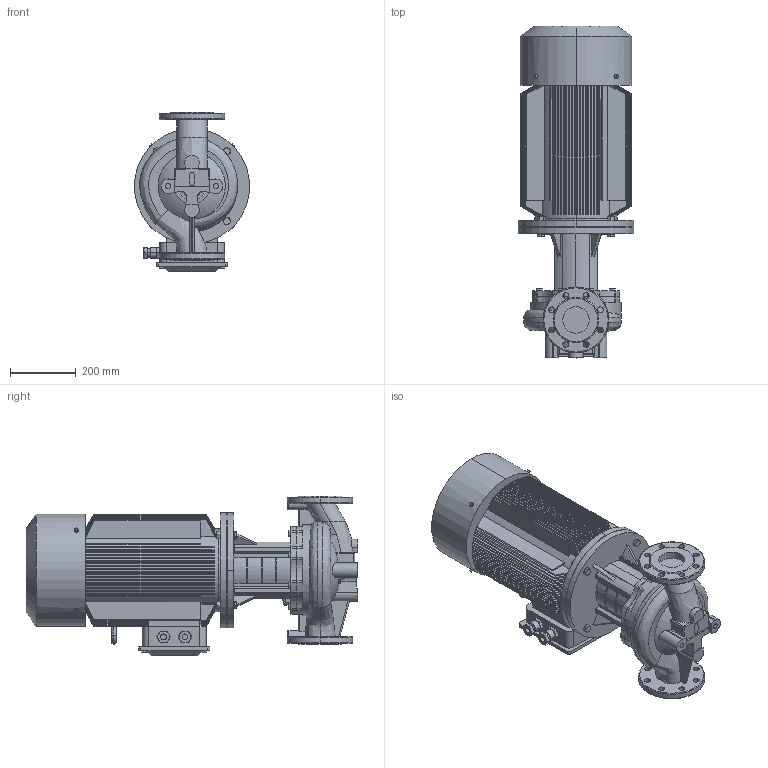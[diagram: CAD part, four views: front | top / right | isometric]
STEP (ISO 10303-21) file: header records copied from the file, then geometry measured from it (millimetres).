
FILE_DESCRIPTION (( 'STEP AP203' ), '1' );
FILE_NAME ('TD80-47G／2.STEP', '2026-09-07T02:37:44', ( '' ), ( '' ), 'SwSTEP 2.0', 'SolidWorks 2020', '' );
FILE_SCHEMA (( 'CONFIG_CONTROL_DESIGN' ));
Products named in the file (1): TD80-47Gㄞ2
Bounding box: 350 x 1007.5 x 485 mm (x, y, z)
Volume: 63291092.5 mm3; surface area: 4128700.8 mm2
Topology: 1 solids, 9 shells, 1563 faces, 4011 edges, 2538 vertices
Faces by surface type: plane 686, cylinder 407, cone 370, bspline 49, torus 49, sphere 2
Entity records: 69049 total; most frequent: CARTESIAN_POINT 32019, ORIENTED_EDGE 8014, DIRECTION 7399, EDGE_CURVE 4007, AXIS2_PLACEMENT_3D 2911, VERTEX_POINT 2538, EDGE_LOOP 1699, VECTOR 1577
